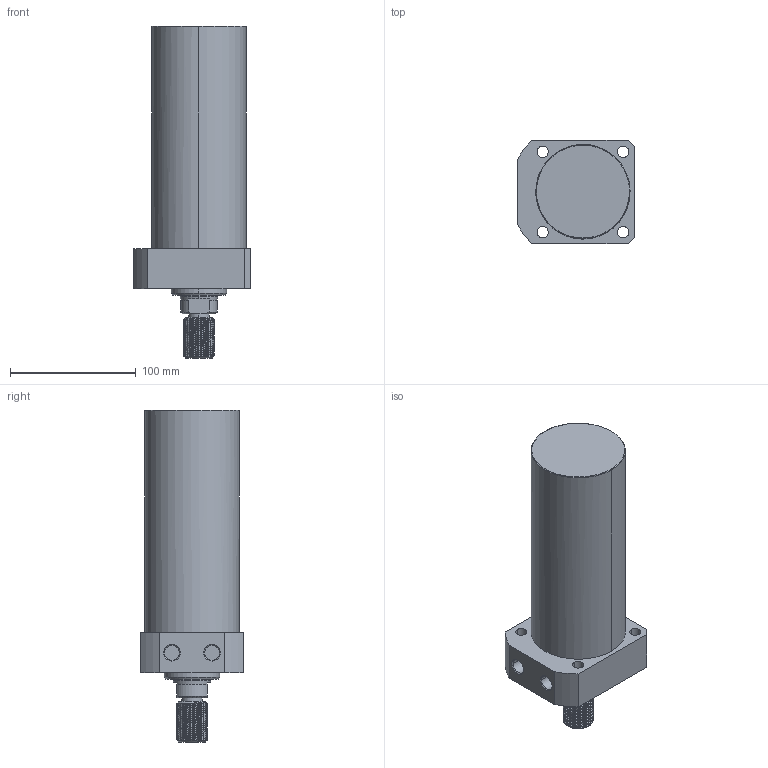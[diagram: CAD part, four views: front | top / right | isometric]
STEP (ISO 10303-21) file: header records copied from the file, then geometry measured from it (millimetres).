
FILE_DESCRIPTION((' '),'2;1');
FILE_NAME( 'TLLR-075CT-140.STEP.stp', '2025-10-24T16:35:14', (' '), ('--- Datakit www.datakit.com---'), ' Datakit CrossCadWare V2024.1 Dec 21 2023', 'Mastercam 2025', ' ');
FILE_SCHEMA(('AUTOMOTIVE_DESIGN { 1 0 10303 214 1 1 1 1 }'));
Length unit declared in the file: millimetre
Products named in the file (1): TLLR-075CT-140
Bounding box: 93 x 82 x 264 mm (x, y, z)
Volume: 1038984.8 mm3; surface area: 77752.7 mm2
Topology: 1 solids, 1 shells, 109 faces, 396 edges, 298 vertices
Faces by surface type: cylinder 69, plane 21, cone 15, torus 2, bspline 2
Entity records: 12857 total; most frequent: CARTESIAN_POINT 9495, ORIENTED_EDGE 792, DIRECTION 545, EDGE_CURVE 396, VERTEX_POINT 298, AXIS2_PLACEMENT_3D 220, B_SPLINE_CURVE_WITH_KNOTS 179, EDGE_LOOP 126
